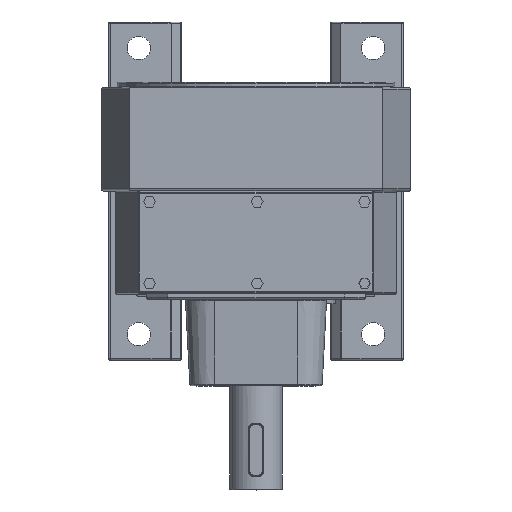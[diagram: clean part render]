
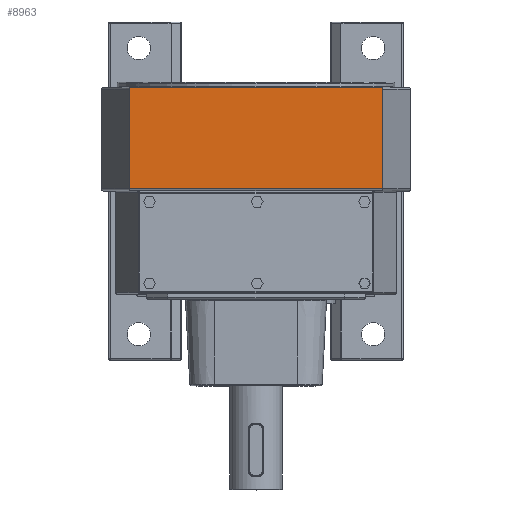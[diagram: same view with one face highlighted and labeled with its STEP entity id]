
A CAD part, top view. The second image highlights one B-rep face of the part: STEP entity #8963.
In plain terms, the highlighted planar face has unit normal (0, 0, 1).
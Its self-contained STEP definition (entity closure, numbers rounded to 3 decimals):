
#1301=CARTESIAN_POINT('',(-73.,58.5,187.));
#1302=VERTEX_POINT('',#1301);
#1303=CARTESIAN_POINT('',(-71.923,59.5,187.));
#1304=VERTEX_POINT('',#1303);
#1305=CARTESIAN_POINT('',(-71.923,58.5,187.));
#1306=DIRECTION('',(0.0,0.0,-1.0));
#1307=DIRECTION('',(-1.0,0.0,0.0));
#1308=AXIS2_PLACEMENT_3D('',#1305,#1306,#1307);
#1309=ELLIPSE('',#1308,1.077,1.);
#1310=EDGE_CURVE('',#1302,#1304,#1309,.T.);
#1548=CARTESIAN_POINT('',(71.923,59.5,187.));
#1549=VERTEX_POINT('',#1548);
#1550=CARTESIAN_POINT('',(71.923,59.5,187.));
#1551=DIRECTION('',(-1.0,0.0,0.0));
#1552=VECTOR('',#1551,143.846);
#1553=LINE('',#1550,#1552);
#1554=EDGE_CURVE('',#1549,#1304,#1553,.T.);
#1795=CARTESIAN_POINT('',(73.,58.5,187.));
#1796=VERTEX_POINT('',#1795);
#1797=CARTESIAN_POINT('',(71.923,58.5,187.));
#1798=DIRECTION('',(0.0,0.0,-1.0));
#1799=DIRECTION('',(1.0,0.0,0.0));
#1800=AXIS2_PLACEMENT_3D('',#1797,#1798,#1799);
#1801=ELLIPSE('',#1800,1.077,1.);
#1802=EDGE_CURVE('',#1549,#1796,#1801,.T.);
#2029=CARTESIAN_POINT('',(-73.,1.0,187.));
#2030=VERTEX_POINT('',#2029);
#2061=CARTESIAN_POINT('',(73.,1.,187.));
#2062=VERTEX_POINT('',#2061);
#2070=CARTESIAN_POINT('',(73.,1.,187.));
#2071=DIRECTION('',(-1.0,0.0,0.0));
#2072=VECTOR('',#2071,146.);
#2073=LINE('',#2070,#2072);
#2074=EDGE_CURVE('',#2062,#2030,#2073,.T.);
#8940=CARTESIAN_POINT('',(0.0,0.0,187.));
#8941=DIRECTION('',(0.0,0.0,1.0));
#8942=DIRECTION('',(1.0,0.0,0.0));
#8943=AXIS2_PLACEMENT_3D('',#8940,#8941,#8942);
#8944=PLANE('',#8943);
#8945=ORIENTED_EDGE('',*,*,#1310,.F.);
#8946=CARTESIAN_POINT('',(-73.,1.0,187.));
#8947=DIRECTION('',(0.0,1.0,0.0));
#8948=VECTOR('',#8947,57.5);
#8949=LINE('',#8946,#8948);
#8950=EDGE_CURVE('',#2030,#1302,#8949,.T.);
#8951=ORIENTED_EDGE('',*,*,#8950,.F.);
#8952=ORIENTED_EDGE('',*,*,#2074,.F.);
#8953=CARTESIAN_POINT('',(73.,1.,187.));
#8954=DIRECTION('',(0.0,1.0,0.0));
#8955=VECTOR('',#8954,57.5);
#8956=LINE('',#8953,#8955);
#8957=EDGE_CURVE('',#2062,#1796,#8956,.T.);
#8958=ORIENTED_EDGE('',*,*,#8957,.T.);
#8959=ORIENTED_EDGE('',*,*,#1802,.F.);
#8960=ORIENTED_EDGE('',*,*,#1554,.T.);
#8961=EDGE_LOOP('',(#8945,#8951,#8952,#8958,#8959,#8960));
#8962=FACE_OUTER_BOUND('',#8961,.T.);
#8963=ADVANCED_FACE('',(#8962),#8944,.T.);
